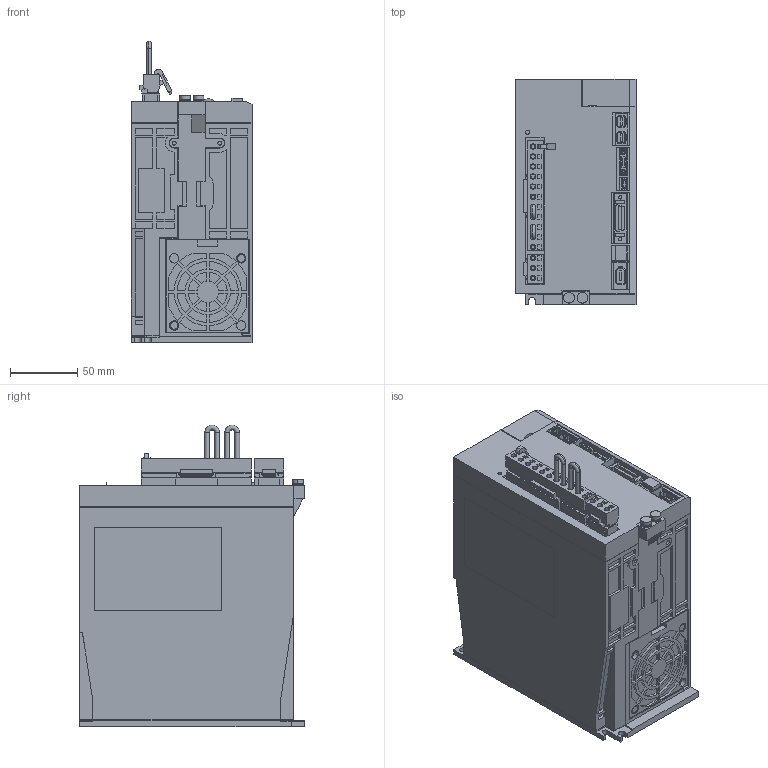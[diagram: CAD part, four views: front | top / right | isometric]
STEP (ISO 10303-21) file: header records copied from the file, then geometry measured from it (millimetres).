
FILE_DESCRIPTION (( 'STEP AP203' ), '1' );
FILE_NAME ('sgd7s_120a20a.STEP', '2014-03-06T04:28:43', ( '匠エンジニアリング山之内' ), ( 'TAKUMI-Engniaring' ), 'SwSTEP 2.0', 'SolidWorks 2006303', '' );
FILE_SCHEMA (( 'CONFIG_CONTROL_DESIGN' ));
Products named in the file (10): sgd7s_120a20a_cable; sgd7s_120a20a_connector_1; sgd7s_120a20a; sgd7s_120a20a_base; sgd7s_120a20a_connector; sgd7s_120a20a_connector_2; sgd7s_120a20a_pin; sgd7s_120a20a_cover; sgd7s_120a20a_cover2; sgd7s_120a20a_connector_3
Assembly tree (11 placements, depth 3):
  sgd7s_120a20a
    sgd7s_120a20a_base
    sgd7s_120a20a_connector_3
    sgd7s_120a20a_cover
    sgd7s_120a20a_connector
      sgd7s_120a20a_connector_2
      sgd7s_120a20a_pin
      sgd7s_120a20a_cable  x2
    sgd7s_120a20a_cover2  x2
    sgd7s_120a20a_connector_1
Bounding box: 90.5 x 168 x 225 mm (x, y, z)
Volume: 2553833.2 mm3; surface area: 171894 mm2
Topology: 10 solids, 10 shells, 2076 faces, 5365 edges, 3536 vertices
Faces by surface type: plane 1823, cylinder 244, cone 4, torus 4, sphere 1
Entity records: 62407 total; most frequent: CARTESIAN_POINT 10825, ORIENTED_EDGE 10570, DIRECTION 9881, EDGE_CURVE 5285, VECTOR 4801, LINE 4801, VERTEX_POINT 3484, AXIS2_PLACEMENT_3D 2540
